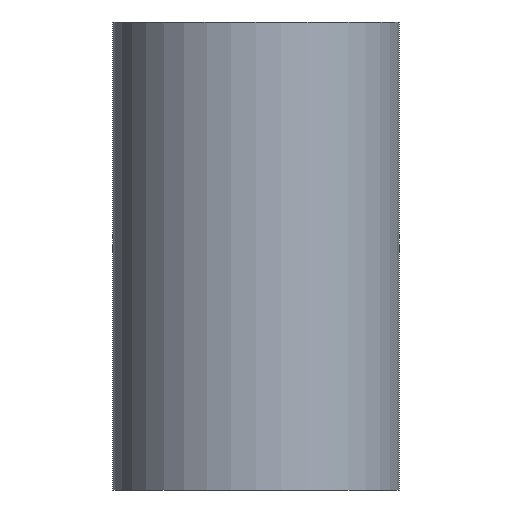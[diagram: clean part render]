
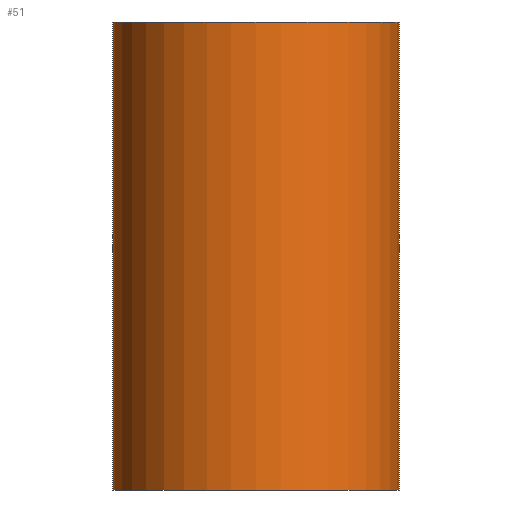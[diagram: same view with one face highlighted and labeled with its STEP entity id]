
A CAD part, left-side view. The second image highlights one B-rep face of the part: STEP entity #51.
In plain terms, the highlighted cylindrical face has radius 15.9 mm (diameter 31.8 mm), a partial arc.
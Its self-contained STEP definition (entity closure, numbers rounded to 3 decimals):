
#51=ADVANCED_FACE('',(#59),#60,.T.);
#59=FACE_OUTER_BOUND('',#74,.T.);
#60=CYLINDRICAL_SURFACE('',#75,15.9);
#74=EDGE_LOOP('',(#89,#90,#91,#92));
#75=AXIS2_PLACEMENT_3D('',#93,#94,#95);
#89=ORIENTED_EDGE('',*,*,#132,.F.);
#90=ORIENTED_EDGE('',*,*,#133,.T.);
#91=ORIENTED_EDGE('',*,*,#134,.F.);
#92=ORIENTED_EDGE('',*,*,#135,.T.);
#93=CARTESIAN_POINT('',(0.,0.,0.0));
#94=DIRECTION('',(0.0,-0.0,1.0));
#95=DIRECTION('',(0.,1.0,0.0));
#132=EDGE_CURVE('',#144,#145,#146,.T.);
#133=EDGE_CURVE('',#144,#147,#148,.T.);
#134=EDGE_CURVE('',#149,#147,#150,.T.);
#135=EDGE_CURVE('',#149,#145,#151,.T.);
#144=VERTEX_POINT('',#164);
#145=VERTEX_POINT('',#165);
#146=LINE('',#166,#167);
#147=VERTEX_POINT('',#168);
#148=CIRCLE('',#169,15.9);
#149=VERTEX_POINT('',#170);
#150=LINE('',#171,#172);
#151=CIRCLE('',#173,15.9);
#164=CARTESIAN_POINT('',(0.,15.9,0.0));
#165=CARTESIAN_POINT('',(0.,15.9,52.0));
#166=CARTESIAN_POINT('',(0.,15.9,0.0));
#167=VECTOR('',#188,1.0);
#168=CARTESIAN_POINT('',(0.,-15.9,0.0));
#169=AXIS2_PLACEMENT_3D('',#189,#190,#191);
#170=CARTESIAN_POINT('',(0.,-15.9,52.0));
#171=CARTESIAN_POINT('',(0.,-15.9,0.0));
#172=VECTOR('',#192,1.0);
#173=AXIS2_PLACEMENT_3D('',#193,#194,#195);
#188=DIRECTION('',(0.0,0.0,1.0));
#189=CARTESIAN_POINT('',(0.,0.,0.0));
#190=DIRECTION('',(0.0,-0.0,1.0));
#191=DIRECTION('',(0.,1.0,0.0));
#192=DIRECTION('',(-0.0,-0.0,-1.0));
#193=CARTESIAN_POINT('',(0.,0.,52.0));
#194=DIRECTION('',(0.0,0.0,-1.0));
#195=DIRECTION('',(0.,1.0,0.0));
